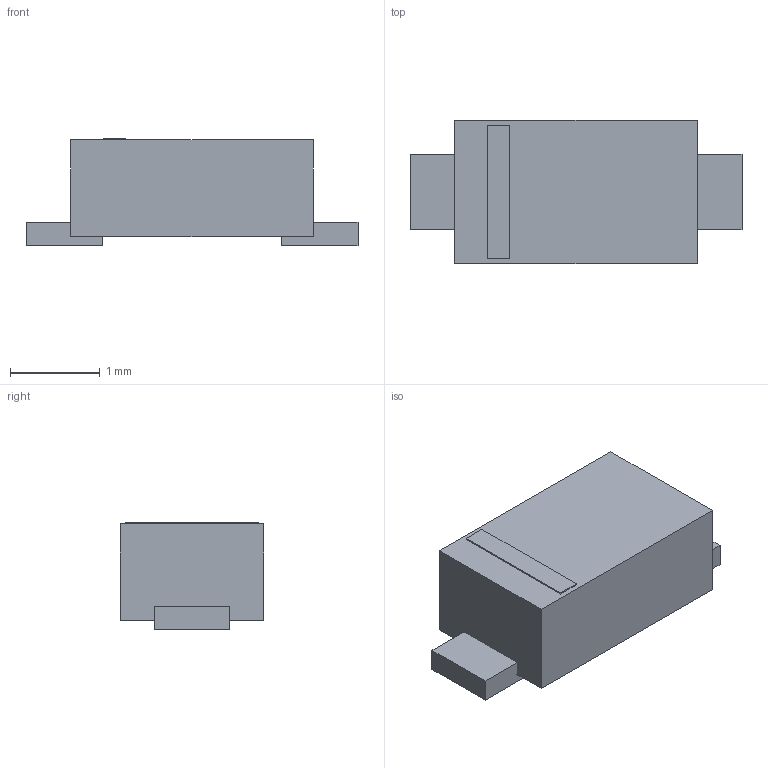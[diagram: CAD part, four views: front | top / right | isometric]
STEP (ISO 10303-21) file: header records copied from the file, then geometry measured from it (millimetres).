
FILE_DESCRIPTION(('FreeCAD Model'),'2;1');
FILE_NAME('Open CASCADE Shape Model','2026-09-21T21:53:17',('FreeCAD'),( 'FreeCAD'),'Open CASCADE STEP processor 7.8','FreeCAD','Unknown');
FILE_SCHEMA(('AUTOMOTIVE_DESIGN { 1 0 10303 214 1 1 1 1 }'));
Length unit declared in the file: millimetre
Products named in the file (1): Open CASCADE STEP translator 7.8 5
Bounding box: 3.7 x 1.6 x 1.2 mm (x, y, z)
Volume: 5 mm3; surface area: 23.3 mm2
Topology: 4 solids, 4 shells, 24 faces, 48 edges, 32 vertices
Faces by surface type: plane 24
Entity records: 616 total; most frequent: CARTESIAN_POINT 105, DIRECTION 98, ORIENTED_EDGE 96, EDGE_CURVE 48, LINE 48, VECTOR 48, VERTEX_POINT 32, AXIS2_PLACEMENT_3D 25
